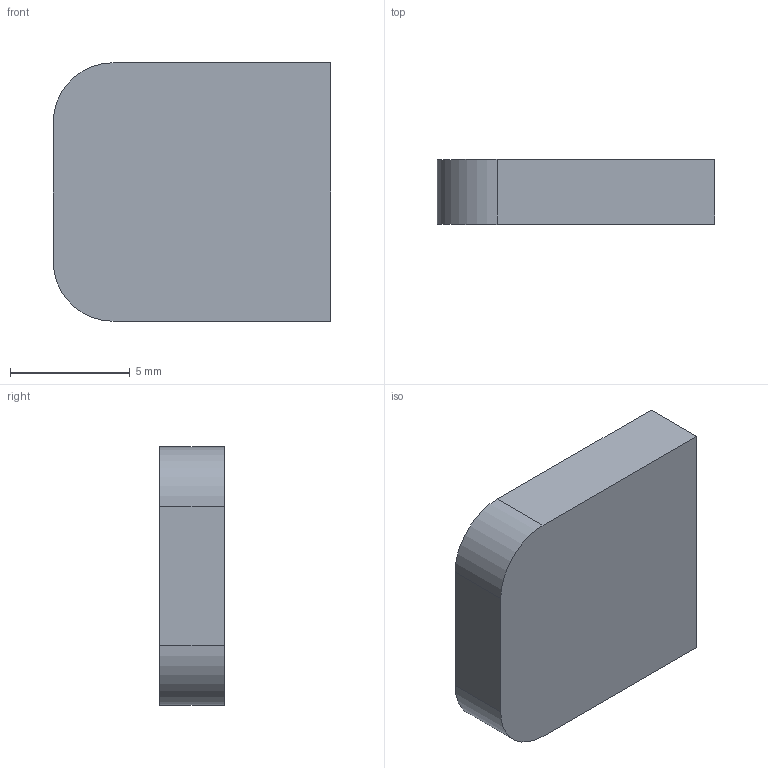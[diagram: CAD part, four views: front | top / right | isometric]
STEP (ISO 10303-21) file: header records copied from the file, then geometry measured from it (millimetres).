
FILE_DESCRIPTION(/* description */ ('STEP AP242 Edition 2','CAx-IF Rec.Pracs.---Representation and Presentation of Product Manufacturing Information (PMI)---4.0---2014-10-13','CAx-IF Rec.Pracs.---3D Tessellated Geometry---0.4---2014-09-14','2;1','CAx-IF Rec.Pracs.---User Defined Attributes---1.5---2016-08-15'),/* implementation_level */ '2;1');
FILE_NAME(/* name */ 'FlexibleBoxPartStudio - Joints',/* time_stamp */ '2026-02-11T15:49:31Z',/* author */ (''),/* organization */ (''),/* preprocessor_version */ 'ST-DEVELOPER v20',/* originating_system */ 'ONSHAPE BY PTC INC, 1.210',/* authorisation */ ' ');
FILE_SCHEMA (('AP242_MANAGED_MODEL_BASED_3D_ENGINEERING_MIM_LF { 1 0 10303 442 3 1 4 }'));
Length unit declared in the file: metre
Products named in the file (1): Joints
Bounding box: 11.6 x 2.7 x 10.8 mm (x, y, z)
Volume: 331 mm3; surface area: 360.4 mm2
Topology: 1 solids, 1 shells, 8 faces, 18 edges, 12 vertices
Faces by surface type: plane 6, cylinder 2
Entity records: 248 total; most frequent: DIRECTION 40, CARTESIAN_POINT 39, ORIENTED_EDGE 36, EDGE_CURVE 18, LINE 14, VECTOR 14, AXIS2_PLACEMENT_3D 13, VERTEX_POINT 12
